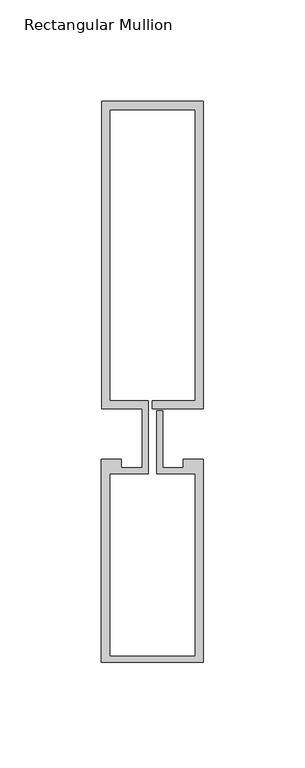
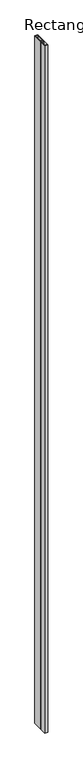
"""IFC4 building model written with IfcOpenShell, lengths in millimetres: member geometry, Rectangular Mullion : Reynaers_CW-50_Mullion-Transom_Horizontal_151.4mm_Facecap-02D."""

from ifc_helpers import new_model, si_unit, frame, origin, place, context, project, spatial, polyline, outline, extrude, source, transform, mapped, element, save


def rectangular_mullion_b81a72bd(model_context):
    return source(origin(), model_context, "Body", "SweptSolid", [
        extrude(outline(polyline([(-24.8004059, 163.9), (25.1995941, 163.9), (25.1995941, 12.5), (0.0, 12.5), (0.0, 16.5), (21.1995941, 16.5), (21.1995941, 159.9), (-20.8004059, 159.9), (-20.8004059, 16.5), (-1.9004059, 16.5), (-1.9004059, -19.5), (-20.994845, -19.5), (-20.994845, -109.4191338), (21.1995941, -109.4191338), (21.1995941, -19.5), (2.2995941, -19.5), (2.2995941, 11.5), (5.2995941, 11.5), (5.2995941, -16.5), (15.2996495, -16.5), (15.2996495, -12.5), (25.1995941, -12.5), (25.1995941, -112.5), (-24.994845, -112.5), (-24.994845, -12.5), (-15.2996495, -12.5), (-15.2996495, -16.5), (-4.9004059, -16.5), (-4.9004059, 12.5), (-24.8004059, 12.5), (-24.8004059, 163.9)])), frame((0.0, 0.0, -12000.0), z_axis=(0.0, 0.0, 1.0), x_axis=(1.0, 0.0, 0.0)), (0.0, 0.0, 1.0), 12000.0),
    ])


if __name__ == "__main__":
    model = new_model("IFC4")
    model_context = context("Model", 3, world=origin())
    ifc_project = project(units=[si_unit("LENGTHUNIT", "METRE", prefix="MILLI")], contexts=[model_context])
    site = spatial("IfcSite", under=ifc_project)
    building = spatial("IfcBuilding", under=site)
    placement = place(None, origin())
    rectangular_mullion_shape = rectangular_mullion_b81a72bd(model_context)
    element("IfcMember", 1, ObjectType="Rectangular Mullion : Reynaers_CW-50_Mullion-Transom_Horizontal_151.4mm_Facecap-02D", at=placement, inside=building, context=model_context, shape_type="MappedRepresentation", body=[
        mapped(rectangular_mullion_shape, transform((0.0, 0.0, 0.0), x_axis=(1.0, 0.0, 0.0), y_axis=(0.0, 1.0, 0.0), z_axis=(0.0, 0.0, 1.0))),
    ])
    save(model, "model.ifc")
